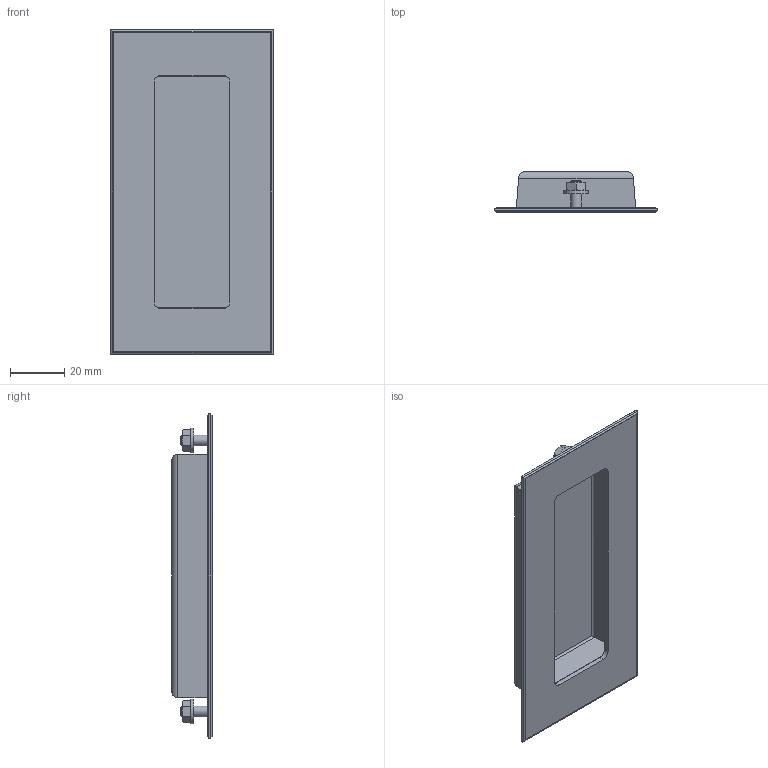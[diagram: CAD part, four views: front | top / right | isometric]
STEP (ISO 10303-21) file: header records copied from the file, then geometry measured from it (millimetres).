
FILE_DESCRIPTION(('STEP AP214'),'1');
FILE_NAME('HAHH.stp','2017-07-25T04:06:33',(' '),(' '),'Spatial InterOp 3D',' ',' ');
FILE_SCHEMA(('automotive_design'));
Length unit declared in the file: millimetre
Products named in the file (4): HAHH
Assembly tree (5 placements, depth 2):
  HAHH
    HAHH
    (unnamed)  x2
    (unnamed)  x2
Bounding box: 60 x 15 x 120 mm (x, y, z)
Volume: 20823.2 mm3; surface area: 23881.2 mm2
Topology: 5 solids, 5 shells, 105 faces, 230 edges, 140 vertices
Faces by surface type: plane 47, cylinder 32, cone 26
Full cylindrical faces by diameter (mm): 3.998 x2, 4 x2, 4.79 x2, 9 x2
Entity records: 2951 total; most frequent: CARTESIAN_POINT 468, DIRECTION 378, ORIENTED_EDGE 340, EDGE_CURVE 170, AXIS2_PLACEMENT_3D 146, VERTEX_POINT 108, EDGE_LOOP 96, LINE 86
